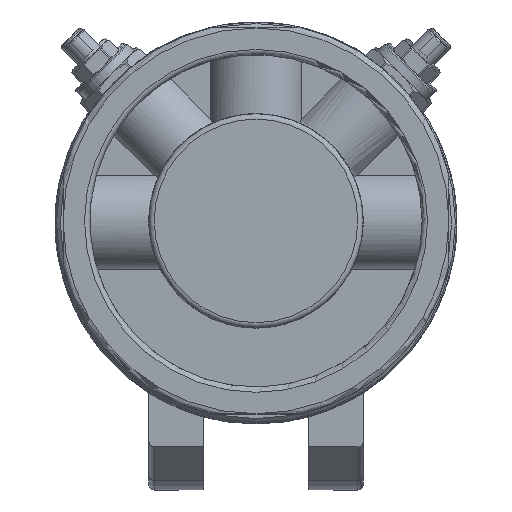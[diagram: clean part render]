
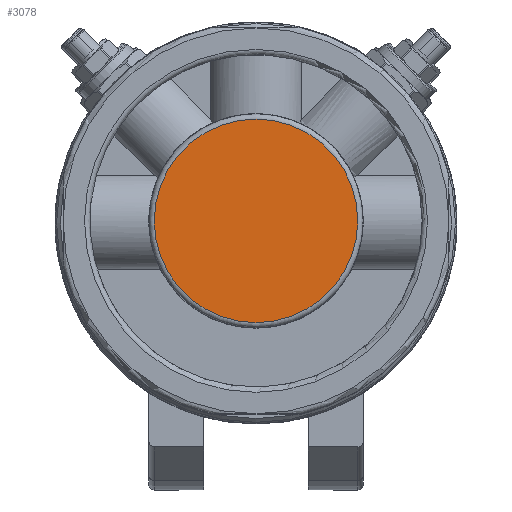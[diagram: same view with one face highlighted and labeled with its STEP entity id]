
A CAD part, top view. The second image highlights one B-rep face of the part: STEP entity #3078.
In plain terms, the highlighted planar face has unit normal (0, 0, 1).
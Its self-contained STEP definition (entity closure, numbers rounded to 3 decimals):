
#2767=CARTESIAN_POINT('',(19.0,0.,245.5));
#2768=VERTEX_POINT('',#2767);
#2769=CARTESIAN_POINT('',(0.,0.,245.5));
#2770=DIRECTION('',(0.0,0.0,-1.0));
#2771=DIRECTION('',(-1.0,0.0,0.0));
#2772=AXIS2_PLACEMENT_3D('',#2769,#2770,#2771);
#2773=CIRCLE('',#2772,19.0);
#2774=EDGE_CURVE('',#2768,#2768,#2773,.T.);
#3070=CARTESIAN_POINT('',(0.,0.,245.5));
#3071=DIRECTION('',(0.0,0.0,-1.0));
#3072=DIRECTION('',(-1.0,0.0,0.0));
#3073=AXIS2_PLACEMENT_3D('',#3070,#3071,#3072);
#3074=PLANE('',#3073);
#3075=ORIENTED_EDGE('',*,*,#2774,.F.);
#3076=EDGE_LOOP('',(#3075));
#3077=FACE_OUTER_BOUND('',#3076,.T.);
#3078=ADVANCED_FACE('',(#3077),#3074,.F.);
